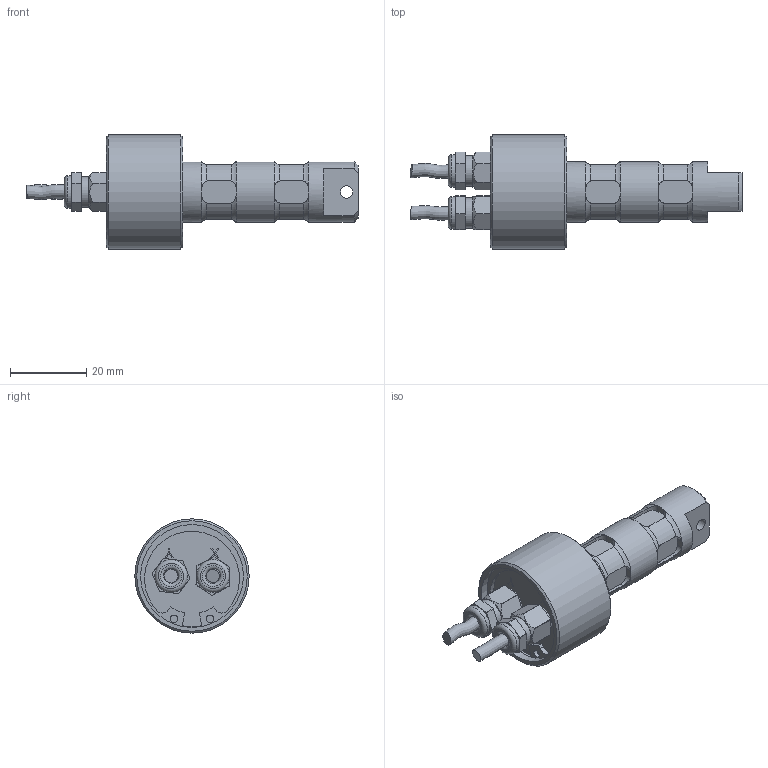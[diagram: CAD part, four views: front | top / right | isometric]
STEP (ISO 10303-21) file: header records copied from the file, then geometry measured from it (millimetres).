
FILE_DESCRIPTION(/* description */ ('Alibre Inc.'),/* implementation_level */ '2;1');
FILE_NAME(/* name */ 'export-AB9FF29C-395C-4052-989A-8CDE72BE8DC9',/* time_stamp */ '2021-05-11T08:57:30+02:00',/* author */ (''),/* organization */ (''),/* preprocessor_version */ 'ST-DEVELOPER v17',/* originating_system */ 'Alibre',/* authorisation */ '');
FILE_SCHEMA (('CONFIG_CONTROL_DESIGN'));
Length unit declared in the file: millimetre
Products named in the file (8): ID_1; 1
Bounding box: 87.11 x 30 x 30 mm (x, y, z)
Volume: 21884.1 mm3; surface area: 10493.4 mm2
Topology: 9 solids, 9 shells, 287 faces, 728 edges, 472 vertices
Faces by surface type: plane 157, cylinder 96, torus 22, cone 10, bspline 2
Full cylindrical faces by diameter (mm): 3.2 x1, 3.5 x2, 4.917 x2, 6 x2, 8 x2, 8.6 x2, 16 x3, 26.6 x1, 27 x2, 28.4 x1, 30 x1
Entity records: 7985 total; most frequent: CARTESIAN_POINT 1883, ORIENTED_EDGE 1188, DIRECTION 881, EDGE_CURVE 594, VERTEX_POINT 397, VECTOR 349, LINE 349, AXIS2_PLACEMENT_3D 335
